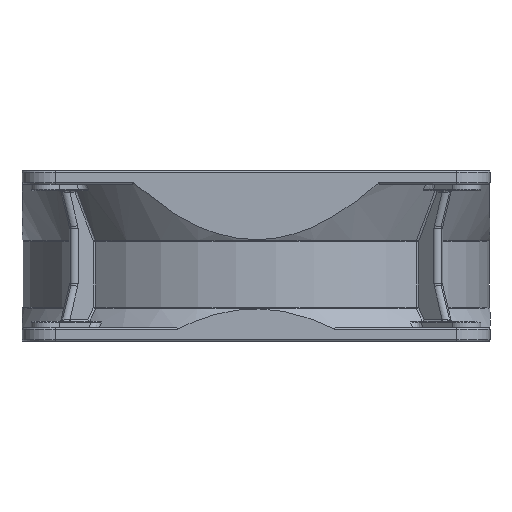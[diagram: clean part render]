
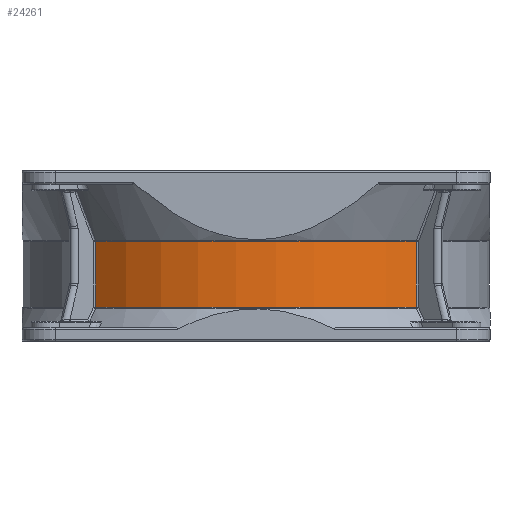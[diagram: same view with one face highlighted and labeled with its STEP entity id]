
A CAD part, front view. The second image highlights one B-rep face of the part: STEP entity #24261.
In plain terms, the highlighted cylindrical face has radius 69.8 mm (diameter 139.6 mm), a partial arc.
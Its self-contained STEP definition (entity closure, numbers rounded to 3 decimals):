
#1707 = VERTEX_POINT ( 'NONE', #51049 ) ;
#1870 = DIRECTION ( 'NONE',  ( 0., 0., 1. ) ) ;
#4560 = CARTESIAN_POINT ( 'NONE',  ( 47.932, -50.74, 44.538 ) ) ;
#5464 = EDGE_CURVE ( 'NONE', #1707, #39180, #24934, .T. ) ;
#5557 = LINE ( 'NONE', #20718, #46438 ) ;
#9480 = DIRECTION ( 'NONE',  ( 0., 0., -1. ) ) ;
#14678 = CARTESIAN_POINT ( 'NONE',  ( 47.932, -50.74, -21.125 ) ) ;
#17233 = VERTEX_POINT ( 'NONE', #14678 ) ;
#18199 = VECTOR ( 'NONE', #51013, 1000. ) ;
#20718 = CARTESIAN_POINT ( 'NONE',  ( -47.932, -50.74, 44.538 ) ) ;
#24261 = ADVANCED_FACE ( 'NONE', ( #51648 ), #40441, .T. ) ;
#24934 = CIRCLE ( 'NONE', #40541, 69.8 ) ;
#25313 = CIRCLE ( 'NONE', #42922, 69.8 ) ;
#27133 = CARTESIAN_POINT ( 'NONE',  ( 0., 0., -40.855 ) ) ;
#27321 = VERTEX_POINT ( 'NONE', #49144 ) ;
#30661 = EDGE_LOOP ( 'NONE', ( #52553, #38943, #37795, #51039 ) ) ;
#30725 = LINE ( 'NONE', #4560, #18199 ) ;
#31377 = DIRECTION ( 'NONE',  ( 1., 0., 0. ) ) ;
#34740 = CARTESIAN_POINT ( 'NONE',  ( 0., 0., -21.125 ) ) ;
#35821 = EDGE_CURVE ( 'NONE', #27321, #1707, #5557, .T. ) ;
#37702 = CARTESIAN_POINT ( 'NONE',  ( 0., 0., 44.538 ) ) ;
#37795 = ORIENTED_EDGE ( 'NONE', *, *, #35821, .T. ) ;
#38943 = ORIENTED_EDGE ( 'NONE', *, *, #39620, .T. ) ;
#38987 = DIRECTION ( 'NONE',  ( 1., 0., 0. ) ) ;
#39180 = VERTEX_POINT ( 'NONE', #46627 ) ;
#39620 = EDGE_CURVE ( 'NONE', #17233, #27321, #25313, .T. ) ;
#40441 = CYLINDRICAL_SURFACE ( 'NONE', #50313, 69.8 ) ;
#40541 = AXIS2_PLACEMENT_3D ( 'NONE', #27133, #1870, #31377 ) ;
#41791 = DIRECTION ( 'NONE',  ( 0., 0., 1. ) ) ;
#41976 = DIRECTION ( 'NONE',  ( 1., 0., 0. ) ) ;
#42922 = AXIS2_PLACEMENT_3D ( 'NONE', #34740, #9480, #38987 ) ;
#46125 = DIRECTION ( 'NONE',  ( 0., 0., -1. ) ) ;
#46438 = VECTOR ( 'NONE', #46125, 1000. ) ;
#46627 = CARTESIAN_POINT ( 'NONE',  ( 47.932, -50.74, -40.855 ) ) ;
#49080 = EDGE_CURVE ( 'NONE', #39180, #17233, #30725, .T. ) ;
#49144 = CARTESIAN_POINT ( 'NONE',  ( -47.932, -50.74, -21.125 ) ) ;
#50313 = AXIS2_PLACEMENT_3D ( 'NONE', #37702, #41791, #41976 ) ;
#51013 = DIRECTION ( 'NONE',  ( 0., 0., 1. ) ) ;
#51039 = ORIENTED_EDGE ( 'NONE', *, *, #5464, .T. ) ;
#51049 = CARTESIAN_POINT ( 'NONE',  ( -47.932, -50.74, -40.855 ) ) ;
#51648 = FACE_OUTER_BOUND ( 'NONE', #30661, .T. ) ;
#52553 = ORIENTED_EDGE ( 'NONE', *, *, #49080, .T. ) ;
